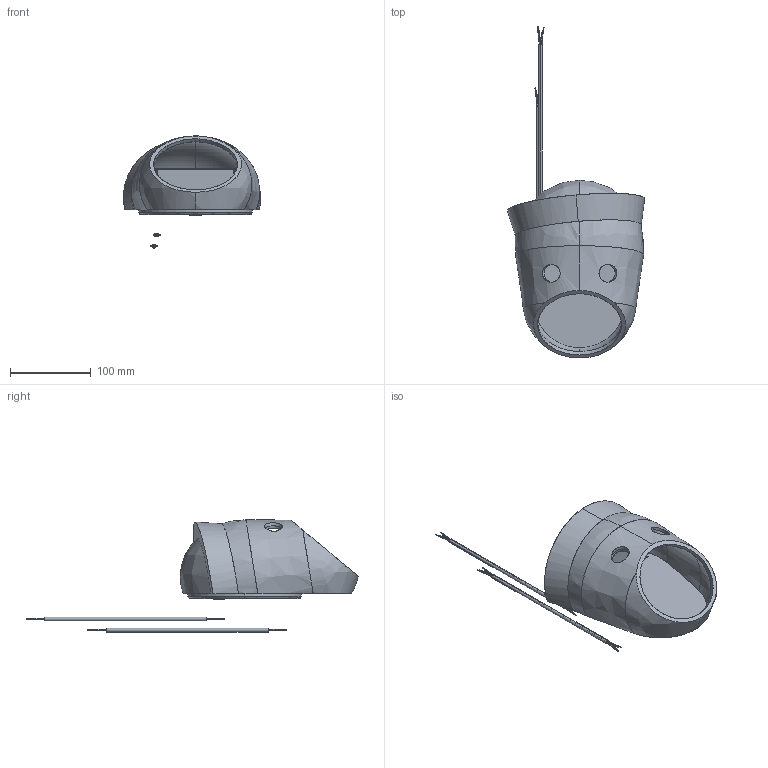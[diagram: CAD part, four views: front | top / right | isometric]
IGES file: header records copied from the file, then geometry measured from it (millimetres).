
Start section: SolidWorks IGES file using analytic representation for surfaces
Global section: file name: C:\Moooi\01_PRODUCTS\LI_Lighting Decorative\LI150 Orthenaartjes\11_Export\A000923_Creations_GLEN_19-10-2018.igs; native system: SolidWorks 2017; preprocessor: SolidWorks 2017; author: Nataliajaskowska; date: 181019.092222; units: millimetre
Bounding box: 169.34 x 409.92 x 138.43 mm (x, y, z)
Surface area: 297769 mm2 (no closed solid volume)
Topology: 0 solids, 0 shells, 1737 faces, 20535 edges, 20510 vertices
Faces by surface type: bspline 1113, revolution 624
